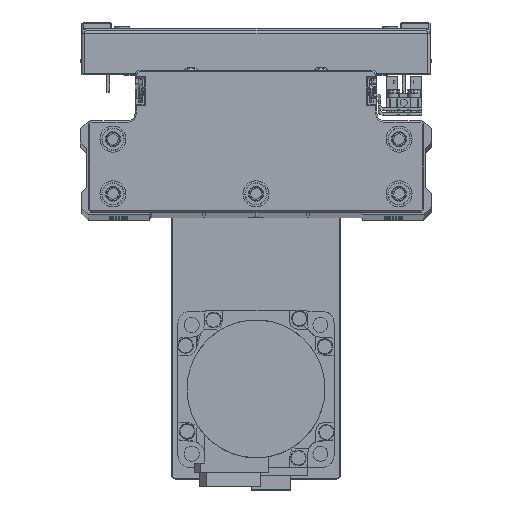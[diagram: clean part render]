
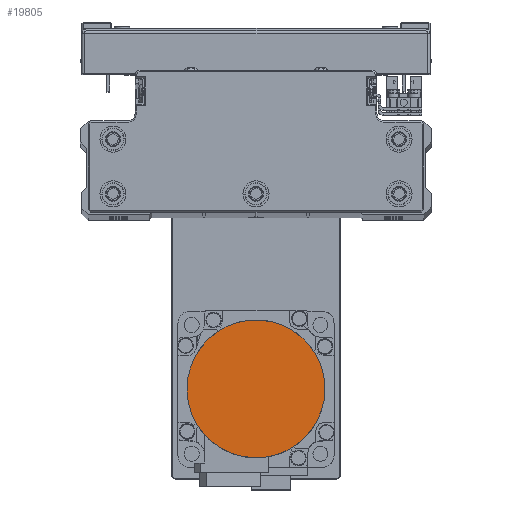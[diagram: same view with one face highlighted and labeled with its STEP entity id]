
A CAD part, top view. The second image highlights one B-rep face of the part: STEP entity #19805.
In plain terms, the highlighted planar face has unit normal (0, 0, 1) as drawn and (0, 0, -1) by its records, which use the part's own axes.
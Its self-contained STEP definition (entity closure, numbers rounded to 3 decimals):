
#483 = AXIS2_PLACEMENT_3D ( 'NONE', #7448, #21190, #34974 ) ;
#1119 = CARTESIAN_POINT ( 'NONE',  ( 25.652, 6.871, -109.7 ) ) ;
#1364 = CARTESIAN_POINT ( 'NONE',  ( 1.734, 26.5, -109.7 ) ) ;
#1587 = CARTESIAN_POINT ( 'NONE',  ( -25.147, 8.539, -109.7 ) ) ;
#2059 = CARTESIAN_POINT ( 'NONE',  ( -11.744, -23.819, -109.7 ) ) ;
#2289 = CARTESIAN_POINT ( 'NONE',  ( 19.965, -17.512, -109.7 ) ) ;
#3720 = B_SPLINE_CURVE_WITH_KNOTS ( 'NONE', 3,
 ( #15587, #29347, #43133, #12223, #25975, #39767, #8824, #22577, #36359, #5441, #19188, #32963, #2059, #15833, #29593, #43363, #12439, #26191, #39976, #9035, #22791, #36579, #5669, #19422, #33202, #2289, #16043, #29805, #43572, #12647, #26402, #40193, #9264, #23031 ),
 .UNSPECIFIED., .F., .F.,
 ( 4, 2, 2, 2, 2, 2, 2, 2, 2, 2, 2, 2, 2, 2, 2, 2, 4 ),
 ( 0., 0.063, 0.125, 0.188, 0.25, 0.312, 0.375, 0.437, 0.5, 0.562, 0.625, 0.687, 0.75, 0.813, 0.875, 0.938, 1. ),
 .UNSPECIFIED. ) ;
#4523 = CARTESIAN_POINT ( 'NONE',  ( 26.5, 0., -109.7 ) ) ;
#4653 = B_SPLINE_CURVE_WITH_KNOTS ( 'NONE', 3,
 ( #4523, #18264, #32036, #1119, #14886, #28657, #42430, #11519, #25272, #39055, #8126, #21872, #35647, #4739, #18484, #32269, #1364, #15133, #28894, #42653, #11736, #25483, #39272, #8342, #22093, #35880, #4980, #18732, #32505, #1587, #15347, #29104, #42869, #11958 ),
 .UNSPECIFIED., .F., .F.,
 ( 4, 2, 2, 2, 2, 2, 2, 2, 2, 2, 2, 2, 2, 2, 2, 2, 4 ),
 ( 0., 0.062, 0.125, 0.187, 0.25, 0.312, 0.375, 0.437, 0.5, 0.562, 0.625, 0.687, 0.75, 0.813, 0.875, 0.938, 1. ),
 .UNSPECIFIED. ) ;
#4739 = CARTESIAN_POINT ( 'NONE',  ( 8.539, 25.147, -109.7 ) ) ;
#4980 = CARTESIAN_POINT ( 'NONE',  ( -21.07, 16.165, -109.7 ) ) ;
#5441 = CARTESIAN_POINT ( 'NONE',  ( -17.512, -19.965, -109.7 ) ) ;
#5669 = CARTESIAN_POINT ( 'NONE',  ( 13.28, -22.998, -109.7 ) ) ;
#6783 = ORIENTED_EDGE ( 'NONE', *, *, #28993, .F. ) ;
#7060 = CARTESIAN_POINT ( 'NONE',  ( -26.5, 0., -109.7 ) ) ;
#7448 = CARTESIAN_POINT ( 'NONE',  ( 0., 0., -109.7 ) ) ;
#8126 = CARTESIAN_POINT ( 'NONE',  ( 16.165, 21.07, -109.7 ) ) ;
#8342 = CARTESIAN_POINT ( 'NONE',  ( -16.165, 21.07, -109.7 ) ) ;
#8824 = CARTESIAN_POINT ( 'NONE',  ( -22.998, -13.28, -109.7 ) ) ;
#9035 = CARTESIAN_POINT ( 'NONE',  ( 6.871, -25.652, -109.7 ) ) ;
#9264 = CARTESIAN_POINT ( 'NONE',  ( 26.5, -1.734, -109.7 ) ) ;
#11519 = CARTESIAN_POINT ( 'NONE',  ( 21.07, 16.165, -109.7 ) ) ;
#11736 = CARTESIAN_POINT ( 'NONE',  ( -8.539, 25.147, -109.7 ) ) ;
#11958 = CARTESIAN_POINT ( 'NONE',  ( -26.5, 0., -109.7 ) ) ;
#12223 = CARTESIAN_POINT ( 'NONE',  ( -25.652, -6.871, -109.7 ) ) ;
#12439 = CARTESIAN_POINT ( 'NONE',  ( -1.734, -26.5, -109.7 ) ) ;
#12647 = CARTESIAN_POINT ( 'NONE',  ( 25.147, -8.539, -109.7 ) ) ;
#14886 = CARTESIAN_POINT ( 'NONE',  ( 25.147, 8.539, -109.7 ) ) ;
#15133 = CARTESIAN_POINT ( 'NONE',  ( -1.734, 26.5, -109.7 ) ) ;
#15347 = CARTESIAN_POINT ( 'NONE',  ( -25.652, 6.871, -109.7 ) ) ;
#15587 = CARTESIAN_POINT ( 'NONE',  ( -26.5, 0., -109.7 ) ) ;
#15833 = CARTESIAN_POINT ( 'NONE',  ( -8.539, -25.147, -109.7 ) ) ;
#16043 = CARTESIAN_POINT ( 'NONE',  ( 21.07, -16.165, -109.7 ) ) ;
#18093 = VERTEX_POINT ( 'NONE', #7060 ) ;
#18264 = CARTESIAN_POINT ( 'NONE',  ( 26.5, 1.734, -109.7 ) ) ;
#18484 = CARTESIAN_POINT ( 'NONE',  ( 6.871, 25.652, -109.7 ) ) ;
#18732 = CARTESIAN_POINT ( 'NONE',  ( -22.998, 13.28, -109.7 ) ) ;
#19188 = CARTESIAN_POINT ( 'NONE',  ( -16.165, -21.07, -109.7 ) ) ;
#19422 = CARTESIAN_POINT ( 'NONE',  ( 16.165, -21.07, -109.7 ) ) ;
#19805 = ADVANCED_FACE ( 'NONE', ( #24597 ), #38378, .F. ) ;
#21190 = DIRECTION ( 'NONE',  ( 0., 0., 1. ) ) ;
#21872 = CARTESIAN_POINT ( 'NONE',  ( 13.28, 22.998, -109.7 ) ) ;
#22093 = CARTESIAN_POINT ( 'NONE',  ( -17.512, 19.965, -109.7 ) ) ;
#22577 = CARTESIAN_POINT ( 'NONE',  ( -21.07, -16.165, -109.7 ) ) ;
#22791 = CARTESIAN_POINT ( 'NONE',  ( 8.539, -25.147, -109.7 ) ) ;
#23031 = CARTESIAN_POINT ( 'NONE',  ( 26.5, 0., -109.7 ) ) ;
#24597 = FACE_OUTER_BOUND ( 'NONE', #37563, .T. ) ;
#24655 = ORIENTED_EDGE ( 'NONE', *, *, #27416, .F. ) ;
#25272 = CARTESIAN_POINT ( 'NONE',  ( 19.965, 17.512, -109.7 ) ) ;
#25483 = CARTESIAN_POINT ( 'NONE',  ( -11.744, 23.819, -109.7 ) ) ;
#25975 = CARTESIAN_POINT ( 'NONE',  ( -25.147, -8.539, -109.7 ) ) ;
#26191 = CARTESIAN_POINT ( 'NONE',  ( 1.734, -26.5, -109.7 ) ) ;
#26402 = CARTESIAN_POINT ( 'NONE',  ( 25.652, -6.871, -109.7 ) ) ;
#27416 = EDGE_CURVE ( 'NONE', #18093, #37719, #3720, .T. ) ;
#28657 = CARTESIAN_POINT ( 'NONE',  ( 23.819, 11.744, -109.7 ) ) ;
#28894 = CARTESIAN_POINT ( 'NONE',  ( -3.469, 26.329, -109.7 ) ) ;
#28993 = EDGE_CURVE ( 'NONE', #37719, #18093, #4653, .T. ) ;
#29104 = CARTESIAN_POINT ( 'NONE',  ( -26.329, 3.469, -109.7 ) ) ;
#29347 = CARTESIAN_POINT ( 'NONE',  ( -26.5, -1.734, -109.7 ) ) ;
#29593 = CARTESIAN_POINT ( 'NONE',  ( -6.871, -25.652, -109.7 ) ) ;
#29805 = CARTESIAN_POINT ( 'NONE',  ( 22.998, -13.28, -109.7 ) ) ;
#32036 = CARTESIAN_POINT ( 'NONE',  ( 26.329, 3.469, -109.7 ) ) ;
#32269 = CARTESIAN_POINT ( 'NONE',  ( 3.469, 26.329, -109.7 ) ) ;
#32450 = CARTESIAN_POINT ( 'NONE',  ( 26.5, 0., -109.7 ) ) ;
#32505 = CARTESIAN_POINT ( 'NONE',  ( -23.819, 11.744, -109.7 ) ) ;
#32963 = CARTESIAN_POINT ( 'NONE',  ( -13.28, -22.998, -109.7 ) ) ;
#33202 = CARTESIAN_POINT ( 'NONE',  ( 17.512, -19.965, -109.7 ) ) ;
#34974 = DIRECTION ( 'NONE',  ( 1., 0., 0. ) ) ;
#35647 = CARTESIAN_POINT ( 'NONE',  ( 11.744, 23.819, -109.7 ) ) ;
#35880 = CARTESIAN_POINT ( 'NONE',  ( -19.965, 17.512, -109.7 ) ) ;
#36359 = CARTESIAN_POINT ( 'NONE',  ( -19.965, -17.512, -109.7 ) ) ;
#36579 = CARTESIAN_POINT ( 'NONE',  ( 11.744, -23.819, -109.7 ) ) ;
#37563 = EDGE_LOOP ( 'NONE', ( #6783, #24655 ) ) ;
#37719 = VERTEX_POINT ( 'NONE', #32450 ) ;
#38378 = PLANE ( 'NONE',  #483 ) ;
#39055 = CARTESIAN_POINT ( 'NONE',  ( 17.512, 19.965, -109.7 ) ) ;
#39272 = CARTESIAN_POINT ( 'NONE',  ( -13.28, 22.998, -109.7 ) ) ;
#39767 = CARTESIAN_POINT ( 'NONE',  ( -23.819, -11.744, -109.7 ) ) ;
#39976 = CARTESIAN_POINT ( 'NONE',  ( 3.469, -26.329, -109.7 ) ) ;
#40193 = CARTESIAN_POINT ( 'NONE',  ( 26.329, -3.469, -109.7 ) ) ;
#42430 = CARTESIAN_POINT ( 'NONE',  ( 22.998, 13.28, -109.7 ) ) ;
#42653 = CARTESIAN_POINT ( 'NONE',  ( -6.871, 25.652, -109.7 ) ) ;
#42869 = CARTESIAN_POINT ( 'NONE',  ( -26.5, 1.734, -109.7 ) ) ;
#43133 = CARTESIAN_POINT ( 'NONE',  ( -26.329, -3.469, -109.7 ) ) ;
#43363 = CARTESIAN_POINT ( 'NONE',  ( -3.469, -26.329, -109.7 ) ) ;
#43572 = CARTESIAN_POINT ( 'NONE',  ( 23.819, -11.744, -109.7 ) ) ;
